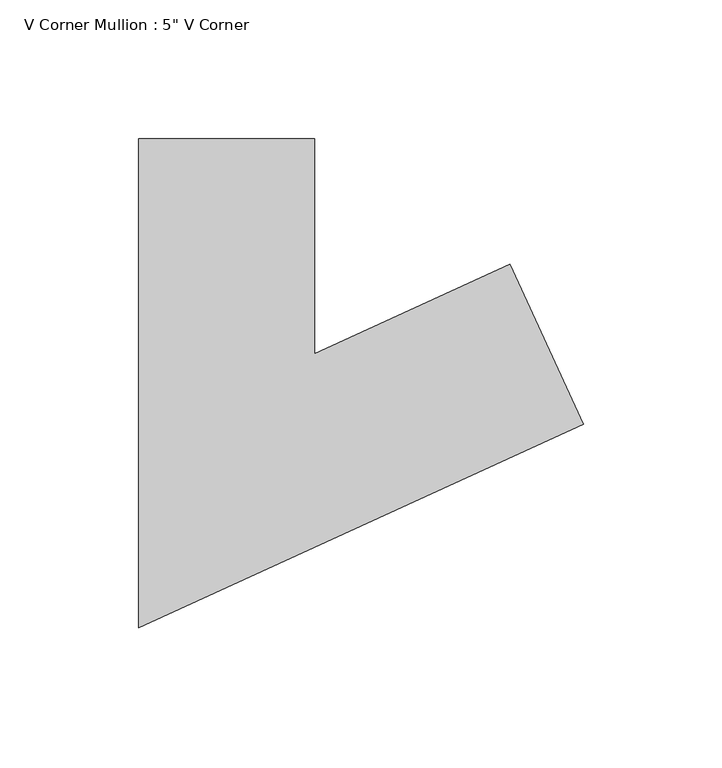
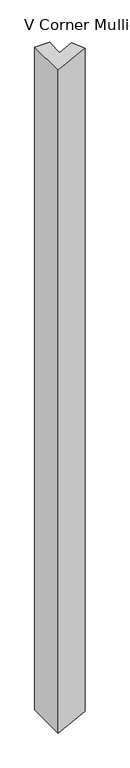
"""IFC4 building model written with IfcOpenShell, lengths in millimetres: member geometry."""

from ifc_helpers import new_model, si_unit, frame, origin, place, context, project, spatial, polyline, outline, extrude, source, transform, mapped, element, save


def member_29169f0d(model_context):
    return source(origin(), model_context, "Body", "SweptSolid", [
        extrude(outline(polyline([(87.9205542, -39.5195451), (-72.5228811, -112.9476953), (-72.5228811, 63.5), (-9.0228811, 63.5), (-9.0228811, -14.0523047), (61.49523, 18.2208415), (87.9205542, -39.5195451)])), frame((0.0, 0.0, -3048.0), z_axis=(0.0, 0.0, 1.0), x_axis=(1.0, 0.0, 0.0)), (0.0, 0.0, 1.0), 3048.0),
    ])


if __name__ == "__main__":
    model = new_model("IFC4")
    model_context = context("Model", 3, world=origin())
    ifc_project = project(units=[si_unit("LENGTHUNIT", "METRE", prefix="MILLI")], contexts=[model_context])
    site = spatial("IfcSite", under=ifc_project)
    building = spatial("IfcBuilding", under=site)
    placement = place(None, origin())
    member_shape = member_29169f0d(model_context)
    element("IfcMember", 1, ObjectType="V Corner Mullion : 5\" V Corner", at=placement, inside=building, context=model_context, shape_type="MappedRepresentation", body=[
        mapped(member_shape, transform((0.0, 0.0, 0.0), x_axis=(1.0, 0.0, 0.0), y_axis=(0.0, 1.0, 0.0), z_axis=(0.0, 0.0, 1.0))),
    ])
    save(model, "model.ifc")
